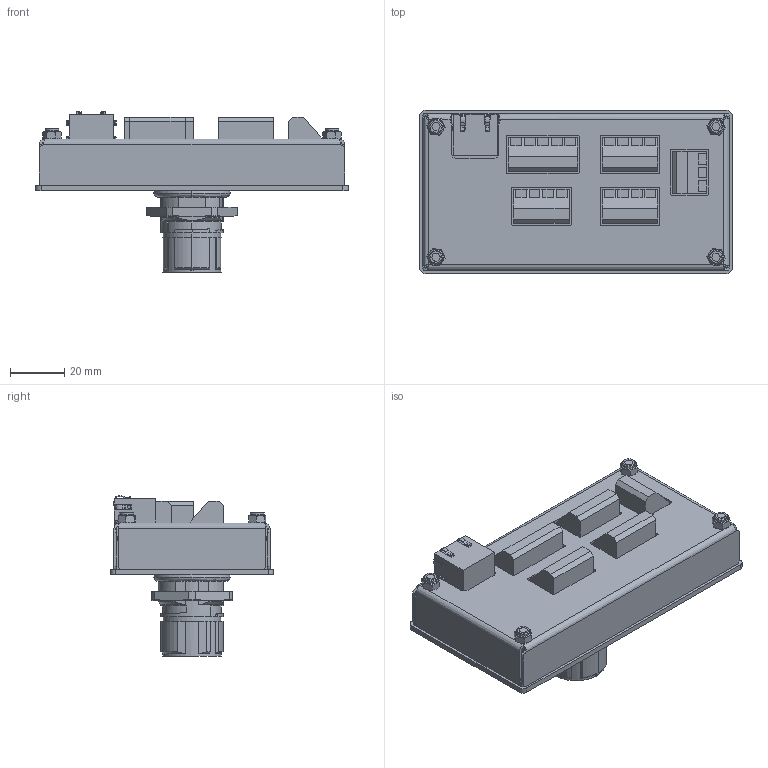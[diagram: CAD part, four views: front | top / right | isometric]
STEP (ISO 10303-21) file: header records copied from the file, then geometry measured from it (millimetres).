
FILE_DESCRIPTION(('STEP AP214'),'2;1');
FILE_NAME('EP3H00000X0YA2 - 2017-09-14 MAINTEAM.stp','2017-09-14T16:15:54',(''),(''),'2009.3.110','THINKDESIGN','');
FILE_SCHEMA(('AUTOMOTIVE_DESIGN'));
Length unit declared in the file: millimetre
Products named in the file (1): None
Bounding box: 115 x 60 x 59.06 mm (x, y, z)
Volume: 142998.2 mm3; surface area: 30153.2 mm2
Topology: 1 solids, 1 shells, 1153 faces, 2913 edges, 1825 vertices
Faces by surface type: plane 684, cylinder 262, bspline 207
Entity records: 49709 total; most frequent: CARTESIAN_POINT 12762, ORIENTED_EDGE 5826, DIRECTION 5020, EDGE_CURVE 2913, VECTOR 1906, LINE 1906, VERTEX_POINT 1825, AXIS2_PLACEMENT_3D 1557
